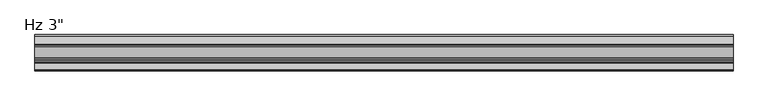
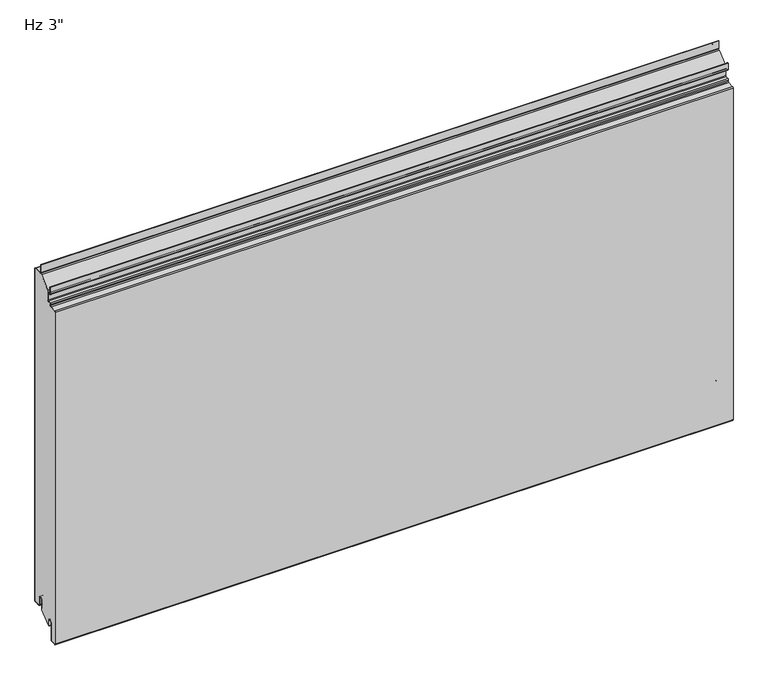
"""IFC4 building model written with IfcOpenShell, lengths in millimetres: plate geometry."""

from ifc_helpers import new_model, si_unit, point, frame, frame_2d, origin, place, context, project, spatial, polyline, circle_curve, ellipse_curve, trimmed, segment, composite_curve, outline, extrude, source, transform, mapped, element, save
from ifc_brep_helpers import plane_surface, cylinder_surface, revolved_surface, extruded_surface, advanced_brep


def plate_9c47cac3(model_context):
    return source(origin(), model_context, "Body", "SolidModel", [
        extrude(outline(composite_curve([segment(trimmed(circle_curve(frame_2d((-21.43125, 19.05)), 4.96875), [point((-16.4625, 19.05))], [point((-26.4, 19.05))], True, "CARTESIAN"), True, "CONTINUOUS"), segment(polyline([(-26.4, 19.05), (-26.4, -3.1323422), (-49.2157227, -23.01875), (-50.8, -23.01875), (-50.8, -13.5080174), (-51.59375, -13.5080174), (-51.3875, -11.9205174)]), True, "CONTINUOUS"), segment(trimmed(circle_curve(frame_2d((-56.35625, -11.9205174)), 4.96875), [point((-51.3875, -11.9205174))], [point((-61.325, -11.9205174))], True, "CARTESIAN"), True, "CONTINUOUS"), segment(polyline([(-61.325, -11.9205174), (-61.325, -50.1038221)]), True, "CONTINUOUS"), segment(trimmed(circle_curve(frame_2d((-62.70625, -50.1038221)), 1.38125), [point((-61.325, -50.1038221))], [point((-62.633961, -51.4831791))], False, "CARTESIAN"), True, "CONTINUOUS"), segment(polyline([(-62.633961, -51.4831791), (-73.746461, -52.0655606)]), True, "CONTINUOUS"), segment(trimmed(circle_curve(frame_2d((-73.81875, -50.6862035)), 1.38125), [point((-73.746461, -52.0655606))], [point((-75.2, -50.6862035))], False, "CARTESIAN"), True, "CONTINUOUS"), segment(polyline([(-75.2, -50.6862035), (-75.2, 704.9572607)]), True, "CONTINUOUS"), segment(trimmed(circle_curve(frame_2d((-73.81875, 704.9572607)), 1.38125), [point((-75.2, 704.9572607))], [point((-73.891039, 706.3366177))], False, "CARTESIAN"), True, "CONTINUOUS"), segment(polyline([(-73.891039, 706.3366177), (-60.1895807, 707.0546807)]), True, "CONTINUOUS"), segment(trimmed(circle_curve(frame_2d((-60.325, 709.6386347)), 2.5875), [point((-60.1895807, 707.0546807))], [point((-57.7375, 709.6386347))], True, "CARTESIAN"), True, "CONTINUOUS"), segment(polyline([(-57.7375, 709.6386347), (-57.7375, 712.6824411)]), True, "CONTINUOUS"), segment(trimmed(circle_curve(frame_2d((-56.35625, 712.6824411)), 1.38125), [point((-57.7375, 712.6824411))], [point((-56.428539, 714.0617981))], False, "CARTESIAN"), True, "CONTINUOUS"), segment(polyline([(-56.428539, 714.0617981), (-50.6645807, 714.3638744)]), True, "CONTINUOUS"), segment(trimmed(circle_curve(frame_2d((-50.8, 716.9478283)), 2.5875), [point((-50.6645807, 714.3638744))], [point((-48.2125, 716.9478283))], True, "CARTESIAN"), True, "CONTINUOUS"), segment(polyline([(-48.2125, 716.9478283), (-48.2125, 739.3892934), (-24.9057308, 760.20625), (-2.38125, 760.20625)]), True, "CONTINUOUS"), segment(trimmed(circle_curve(frame_2d((-2.38125, 758.825)), 1.38125), [point((-2.38125, 760.20625))], [point((-1.0, 758.825))], False, "CARTESIAN"), True, "CONTINUOUS"), segment(polyline([(-1.0, 758.825), (-1.0, 3.175)]), True, "CONTINUOUS"), segment(trimmed(circle_curve(frame_2d((-2.38125, 3.175)), 1.38125), [point((-1.0, 3.175))], [point((-2.38125, 1.79375))], False, "CARTESIAN"), True, "CONTINUOUS"), segment(polyline([(-2.38125, 1.79375), (-15.08125, 1.79375)]), True, "CONTINUOUS"), segment(trimmed(circle_curve(frame_2d((-15.08125, 3.175)), 1.38125), [point((-15.08125, 1.79375))], [point((-16.4625, 3.175))], False, "CARTESIAN"), True, "CONTINUOUS"), segment(polyline([(-16.4625, 3.175), (-16.4625, 19.05)]), True, "CONTINUOUS")], self_intersect=False)), frame((-730.0, 0.0, 0.0), z_axis=(1.0, 0.0, 0.0), x_axis=(0.0, 1.0, 0.0)), (0.0, 0.0, 1.0), 1460.0),
        extrude(outline(composite_curve([segment(polyline([(-25.4, 0.79375), (-26.4, 0.79375), (-26.4, 19.05)]), True, "CONTINUOUS"), segment(trimmed(circle_curve(frame_2d((-21.43125, 19.05)), 4.96875), [point((-26.4, 19.05))], [point((-16.4625, 19.05))], False, "CARTESIAN"), True, "CONTINUOUS"), segment(polyline([(-16.4625, 19.05), (-16.4625, 3.175)]), True, "CONTINUOUS"), segment(trimmed(circle_curve(frame_2d((-15.08125, 3.175)), 1.38125), [point((-16.4625, 3.175))], [point((-15.08125, 1.79375))], True, "CARTESIAN"), True, "CONTINUOUS"), segment(polyline([(-15.08125, 1.79375), (-2.38125, 1.79375)]), True, "CONTINUOUS"), segment(trimmed(circle_curve(frame_2d((-2.38125, 3.175)), 1.38125), [point((-2.38125, 1.79375))], [point((-1.0, 3.175))], True, "CARTESIAN"), True, "CONTINUOUS"), segment(polyline([(-1.0, 3.175), (-1.0, 758.825)]), True, "CONTINUOUS"), segment(trimmed(circle_curve(frame_2d((-2.38125, 758.825)), 1.38125), [point((-1.0, 758.825))], [point((-2.38125, 760.20625))], True, "CARTESIAN"), True, "CONTINUOUS"), segment(polyline([(-2.38125, 760.20625), (-19.446875, 760.20625)]), True, "CONTINUOUS"), segment(trimmed(circle_curve(frame_2d((-19.446875, 762.79375)), 2.5875), [point((-19.446875, 760.20625))], [point((-22.034375, 762.79375))], False, "CARTESIAN"), True, "CONTINUOUS"), segment(polyline([(-22.034375, 762.79375), (-22.034375, 780.25625), (-21.034375, 780.25625), (-21.034375, 762.79375)]), True, "CONTINUOUS"), segment(trimmed(circle_curve(frame_2d((-19.446875, 762.79375)), 1.5875), [point((-21.034375, 762.79375))], [point((-19.446875, 761.20625))], True, "CARTESIAN"), True, "CONTINUOUS"), segment(polyline([(-19.446875, 761.20625), (-2.38125, 761.20625)]), True, "CONTINUOUS"), segment(trimmed(circle_curve(frame_2d((-2.38125, 758.825)), 2.38125), [point((-2.38125, 761.20625))], [point((0.0, 758.825))], False, "CARTESIAN"), True, "CONTINUOUS"), segment(polyline([(0.0, 758.825), (0.0, 3.175)]), True, "CONTINUOUS"), segment(trimmed(circle_curve(frame_2d((-2.38125, 3.175)), 2.38125), [point((0.0, 3.175))], [point((-2.38125, 0.79375))], False, "CARTESIAN"), True, "CONTINUOUS"), segment(polyline([(-2.38125, 0.79375), (-15.08125, 0.79375)]), True, "CONTINUOUS"), segment(trimmed(circle_curve(frame_2d((-15.08125, 3.175)), 2.38125), [point((-15.08125, 0.79375))], [point((-17.4625, 3.175))], False, "CARTESIAN"), True, "CONTINUOUS"), segment(polyline([(-17.4625, 3.175), (-17.4625, 19.05)]), True, "CONTINUOUS"), segment(trimmed(circle_curve(frame_2d((-21.43125, 19.05)), 3.96875), [point((-17.4625, 19.05))], [point((-25.4, 19.05))], True, "CARTESIAN"), True, "CONTINUOUS"), segment(polyline([(-25.4, 19.05), (-25.4, 0.79375)]), True, "CONTINUOUS")], self_intersect=False)), frame((-730.0, 0.0, 0.0), z_axis=(1.0, 0.0, 0.0), x_axis=(0.0, 1.0, 0.0)), (0.0, 0.0, 1.0), 1460.0),
        advanced_brep(
        [(-730.0, -50.8, -23.2314549), (-730.0, -52.3875, -23.2314549), (-730.0, -52.3875, -11.9205174), (-730.0, -60.325, -11.9205174), (-730.0, -60.325, -50.1038221), (-730.0, -62.581625, -52.4818086), (-730.0, -73.694125, -53.0641901), (-730.0, -76.2, -50.6862035), (-730.0, -76.2, 704.9572607), (-730.0, -73.943375, 707.3352473), (-730.0, -60.2419167, 708.0533103), (-730.0, -58.7375, 709.6386347), (-730.0, -58.7375, 712.6824411), (-730.0, -56.480875, 715.0604276), (-730.0, -50.7169167, 715.3625039), (-730.0, -49.2125, 716.9478283), (-730.0, -49.2125, 731.8232326), (-730.0, -50.8, 733.4107326), (-730.0, -54.9671875, 733.4107326), (-730.0, -57.3484375, 735.7919826), (-730.0, -57.3484375, 750.2836032), (-730.0, -55.5546875, 750.2836032), (-730.0, -55.5546875, 740.5544826), (-730.0, -56.3484375, 740.5544826), (-730.0, -56.3484375, 735.7919826), (-730.0, -54.9671875, 734.4107326), (-730.0, -50.8, 734.4107326), (-730.0, -48.2125, 731.8232326), (-730.0, -48.2125, 716.9478283), (-730.0, -50.6645807, 714.3638744), (-730.0, -56.428539, 714.0617981), (-730.0, -57.7375, 712.6824411), (-730.0, -57.7375, 709.6386347), (-730.0, -60.1895807, 707.0546807), (-730.0, -73.891039, 706.3366177), (-730.0, -75.2, 704.9572607), (-730.0, -75.2, -50.6862035), (-730.0, -73.746461, -52.0655606), (-730.0, -62.633961, -51.4831791), (-730.0, -61.325, -50.1038221), (-730.0, -61.325, -11.9205174), (-730.0, -51.3875, -11.9205174), (-730.0, -51.59375, -13.5080174), (-730.0, -50.8, -13.5080174), (730.0, -50.8, -23.2314549), (730.0, -50.8, -13.5080174), (730.0, -51.59375, -13.5080174), (730.0, -51.3875, -11.9205174), (730.0, -61.325, -11.9205174), (730.0, -61.325, -50.1038221), (730.0, -62.633961, -51.4831791), (730.0, -73.746461, -52.0655606), (730.0, -75.2, -50.6862035), (730.0, -75.2, 704.9572607), (730.0, -73.891039, 706.3366177), (730.0, -60.1895807, 707.0546807), (730.0, -57.7375, 709.6386347), (730.0, -57.7375, 712.6824411), (730.0, -56.428539, 714.0617981), (730.0, -50.6645807, 714.3638744), (730.0, -48.2125, 716.9478283), (730.0, -48.2125, 731.8232326), (730.0, -50.8, 734.4107326), (730.0, -54.9671875, 734.4107326), (730.0, -56.3484375, 735.7919826), (730.0, -56.3484375, 740.5544826), (730.0, -55.5546875, 740.5544826), (730.0, -55.5546875, 750.2836032), (730.0, -57.3484375, 750.2836032), (730.0, -57.3484375, 735.7919826), (730.0, -54.9671875, 733.4107326), (730.0, -50.8, 733.4107326), (730.0, -49.2125, 731.8232326), (730.0, -49.2125, 716.9478283), (730.0, -50.7169167, 715.3625039), (730.0, -56.480875, 715.0604276), (730.0, -58.7375, 712.6824411), (730.0, -58.7375, 709.6386347), (730.0, -60.2419167, 708.0533103), (730.0, -73.943375, 707.3352473), (730.0, -76.2, 704.9572607), (730.0, -76.2, -50.6862035), (730.0, -73.694125, -53.0641901), (730.0, -62.581625, -52.4818086), (730.0, -60.325, -50.1038221), (730.0, -60.325, -11.9205174), (730.0, -52.3875, -11.9205174), (730.0, -52.3875, -23.2314549)],
        [
            (0, 1, circle_curve(frame((-730.0, -51.59375, -23.2314549), z_axis=(-1.0, 0.0, 0.0), x_axis=(0.0, 0.0, 1.0)), 0.79375)),
            (1, 2),
            (2, 3, circle_curve(frame((-730.0, -56.35625, -11.9205174), z_axis=(1.0, 0.0, 0.0), x_axis=(0.0, 0.0, 1.0)), 3.96875)),
            (3, 4),
            (4, 5, circle_curve(frame((-730.0, -62.70625, -50.1038221), z_axis=(-1.0, 0.0, 0.0), x_axis=(0.0, 0.0, 1.0)), 2.38125)),
            (5, 6),
            (6, 7, circle_curve(frame((-730.0, -73.81875, -50.6862035), z_axis=(-1.0, 0.0, 0.0), x_axis=(0.0, 0.0, 1.0)), 2.38125)),
            (7, 8),
            (8, 9, circle_curve(frame((-730.0, -73.81875, 704.9572607), z_axis=(-1.0, 0.0, 0.0), x_axis=(0.0, 0.0, 1.0)), 2.38125)),
            (9, 10),
            (10, 11, circle_curve(frame((-730.0, -60.325, 709.6386347), z_axis=(1.0, 0.0, 0.0), x_axis=(0.0, 0.0, 1.0)), 1.5875)),
            (11, 12),
            (12, 13, circle_curve(frame((-730.0, -56.35625, 712.6824411), z_axis=(-1.0, 0.0, 0.0), x_axis=(0.0, 0.0, 1.0)), 2.38125)),
            (13, 14),
            (14, 15, circle_curve(frame((-730.0, -50.8, 716.9478283), z_axis=(1.0, 0.0, 0.0), x_axis=(0.0, 0.0, 1.0)), 1.5875)),
            (15, 16),
            (16, 17, circle_curve(frame((-730.0, -50.8, 731.8232326), z_axis=(1.0, 0.0, 0.0), x_axis=(0.0, 0.0, 1.0)), 1.5875)),
            (17, 18),
            (18, 19, circle_curve(frame((-730.0, -54.9671875, 735.7919826), z_axis=(-1.0, 0.0, 0.0), x_axis=(0.0, 0.0, 1.0)), 2.38125)),
            (19, 20),
            (20, 21, ellipse_curve(frame((-730.0, -56.4515625, 750.2836032), z_axis=(-1.0, 0.0, 0.0), x_axis=(0.0, 1.0, 0.0)), 0.896875, 0.7852275)),
            (21, 22),
            (22, 23),
            (23, 24),
            (24, 25, circle_curve(frame((-730.0, -54.9671875, 735.7919826), z_axis=(1.0, 0.0, 0.0), x_axis=(0.0, 0.0, 1.0)), 1.38125)),
            (25, 26),
            (26, 27, circle_curve(frame((-730.0, -50.8, 731.8232326), z_axis=(-1.0, 0.0, 0.0), x_axis=(0.0, 0.0, 1.0)), 2.5875)),
            (27, 28),
            (28, 29, circle_curve(frame((-730.0, -50.8, 716.9478283), z_axis=(-1.0, 0.0, 0.0), x_axis=(0.0, 0.0, 1.0)), 2.5875)),
            (29, 30),
            (30, 31, circle_curve(frame((-730.0, -56.35625, 712.6824411), z_axis=(1.0, 0.0, 0.0), x_axis=(0.0, 0.0, 1.0)), 1.38125)),
            (31, 32),
            (32, 33, circle_curve(frame((-730.0, -60.325, 709.6386347), z_axis=(-1.0, 0.0, 0.0), x_axis=(0.0, 0.0, 1.0)), 2.5875)),
            (33, 34),
            (34, 35, circle_curve(frame((-730.0, -73.81875, 704.9572607), z_axis=(1.0, 0.0, 0.0), x_axis=(0.0, 0.0, 1.0)), 1.38125)),
            (35, 36),
            (36, 37, circle_curve(frame((-730.0, -73.81875, -50.6862035), z_axis=(1.0, 0.0, 0.0), x_axis=(0.0, 0.0, 1.0)), 1.38125)),
            (37, 38),
            (38, 39, circle_curve(frame((-730.0, -62.70625, -50.1038221), z_axis=(1.0, 0.0, 0.0), x_axis=(0.0, 0.0, 1.0)), 1.38125)),
            (39, 40),
            (40, 41, circle_curve(frame((-730.0, -56.35625, -11.9205174), z_axis=(-1.0, 0.0, 0.0), x_axis=(0.0, 0.0, 1.0)), 4.96875)),
            (41, 42),
            (42, 43),
            (43, 0),
            (44, 45),
            (45, 46),
            (46, 47),
            (47, 48, circle_curve(frame((730.0, -56.35625, -11.9205174), z_axis=(1.0, 0.0, 0.0), x_axis=(0.0, 0.0, 1.0)), 4.96875)),
            (48, 49),
            (49, 50, circle_curve(frame((730.0, -62.70625, -50.1038221), z_axis=(-1.0, 0.0, 0.0), x_axis=(0.0, 0.0, 1.0)), 1.38125)),
            (50, 51),
            (51, 52, circle_curve(frame((730.0, -73.81875, -50.6862035), z_axis=(-1.0, 0.0, 0.0), x_axis=(0.0, 0.0, 1.0)), 1.38125)),
            (52, 53),
            (53, 54, circle_curve(frame((730.0, -73.81875, 704.9572607), z_axis=(-1.0, 0.0, 0.0), x_axis=(0.0, 0.0, 1.0)), 1.38125)),
            (54, 55),
            (55, 56, circle_curve(frame((730.0, -60.325, 709.6386347), z_axis=(1.0, 0.0, 0.0), x_axis=(0.0, 0.0, 1.0)), 2.5875)),
            (56, 57),
            (57, 58, circle_curve(frame((730.0, -56.35625, 712.6824411), z_axis=(-1.0, 0.0, 0.0), x_axis=(0.0, 0.0, 1.0)), 1.38125)),
            (58, 59),
            (59, 60, circle_curve(frame((730.0, -50.8, 716.9478283), z_axis=(1.0, 0.0, 0.0), x_axis=(0.0, 0.0, 1.0)), 2.5875)),
            (60, 61),
            (61, 62, circle_curve(frame((730.0, -50.8, 731.8232326), z_axis=(1.0, 0.0, 0.0), x_axis=(0.0, 0.0, 1.0)), 2.5875)),
            (62, 63),
            (63, 64, circle_curve(frame((730.0, -54.9671875, 735.7919826), z_axis=(-1.0, 0.0, 0.0), x_axis=(0.0, 0.0, 1.0)), 1.38125)),
            (64, 65),
            (65, 66),
            (66, 67),
            (67, 68, ellipse_curve(frame((730.0, -56.4515625, 750.2836032), z_axis=(1.0, 0.0, 0.0), x_axis=(0.0, 1.0, 0.0)), 0.896875, 0.7852275)),
            (68, 69),
            (69, 70, circle_curve(frame((730.0, -54.9671875, 735.7919826), z_axis=(1.0, 0.0, 0.0), x_axis=(0.0, 0.0, 1.0)), 2.38125)),
            (70, 71),
            (71, 72, circle_curve(frame((730.0, -50.8, 731.8232326), z_axis=(-1.0, 0.0, 0.0), x_axis=(0.0, 0.0, 1.0)), 1.5875)),
            (72, 73),
            (73, 74, circle_curve(frame((730.0, -50.8, 716.9478283), z_axis=(-1.0, 0.0, 0.0), x_axis=(0.0, 0.0, 1.0)), 1.5875)),
            (74, 75),
            (75, 76, circle_curve(frame((730.0, -56.35625, 712.6824411), z_axis=(1.0, 0.0, 0.0), x_axis=(0.0, 0.0, 1.0)), 2.38125)),
            (76, 77),
            (77, 78, circle_curve(frame((730.0, -60.325, 709.6386347), z_axis=(-1.0, 0.0, 0.0), x_axis=(0.0, 0.0, 1.0)), 1.5875)),
            (78, 79),
            (79, 80, circle_curve(frame((730.0, -73.81875, 704.9572607), z_axis=(1.0, 0.0, 0.0), x_axis=(0.0, 0.0, 1.0)), 2.38125)),
            (80, 81),
            (81, 82, circle_curve(frame((730.0, -73.81875, -50.6862035), z_axis=(1.0, 0.0, 0.0), x_axis=(0.0, 0.0, 1.0)), 2.38125)),
            (82, 83),
            (83, 84, circle_curve(frame((730.0, -62.70625, -50.1038221), z_axis=(1.0, 0.0, 0.0), x_axis=(0.0, 0.0, 1.0)), 2.38125)),
            (84, 85),
            (85, 86, circle_curve(frame((730.0, -56.35625, -11.9205174), z_axis=(-1.0, 0.0, 0.0), x_axis=(0.0, 0.0, 1.0)), 3.96875)),
            (86, 87),
            (87, 44, circle_curve(frame((730.0, -51.59375, -23.2314549), z_axis=(1.0, 0.0, 0.0), x_axis=(0.0, 0.0, 1.0)), 0.79375)),
            (23, 65),
            (64, 24),
            (28, 60),
            (59, 29),
            (58, 30),
            (57, 31),
            (56, 32),
            (55, 33),
            (54, 34),
            (53, 35),
            (52, 36),
            (51, 37),
            (50, 38),
            (49, 39),
            (48, 40),
            (43, 45),
            (44, 0),
            (87, 1),
            (86, 2),
            (85, 3),
            (84, 4),
            (83, 5),
            (82, 6),
            (81, 7),
            (80, 8),
            (79, 9),
            (78, 10),
            (77, 11),
            (76, 12),
            (75, 13),
            (74, 14),
            (73, 15),
            (72, 16),
            (71, 17),
            (70, 18),
            (69, 19),
            (68, 20),
            (27, 61),
            (26, 62),
            (25, 63),
            (21, 67),
            (66, 22),
            (41, 47),
            (46, 42),
        ],
        [
            plane_surface(frame((-730.0, -76.2, 381.0), z_axis=(-1.0, 0.0, 0.0), x_axis=(0.0, -1.0, 0.0))),
            plane_surface(frame((730.0, -76.2, 381.0), z_axis=(1.0, 0.0, 0.0), x_axis=(0.0, -1.0, 0.0))),
            plane_surface(frame((-730.0, -56.3484375, 735.7919826), z_axis=(0.0, 1.0, 0.0), x_axis=(1.0, 0.0, 0.0))),
            cylinder_surface(frame((-730.0, -50.8, 716.9478283), z_axis=(-1.0, 0.0, 0.0), x_axis=(0.0, 0.0, 1.0)), 2.5875),
            plane_surface(frame((-730.0, -56.428539, 714.0617981), z_axis=(0.0, 0.0523359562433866, -0.9986295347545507), x_axis=(1.0, 0.0, 0.0))),
            revolved_surface(polyline([(730.0, -56.35625, 714.0636911), (-730.0, -56.35625, 714.0636911)]), (-730.0, -56.35625, 712.6824411), (1.0, 0.0, 0.0)),
            plane_surface(frame((-730.0, -57.7375, 709.6386347), z_axis=(0.0, 1.0, 0.0), x_axis=(1.0, 0.0, 0.0))),
            cylinder_surface(frame((-730.0, -60.325, 709.6386347), z_axis=(-1.0, 0.0, 0.0), x_axis=(0.0, 0.0, 1.0)), 2.5875),
            plane_surface(frame((-730.0, -73.891039, 706.3366177), z_axis=(0.0, 0.05233595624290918, -0.9986295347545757), x_axis=(1.0, 0.0, 0.0))),
            revolved_surface(polyline([(730.0, -73.81875, 706.3385107), (-730.0, -73.81875, 706.3385107)]), (-730.0, -73.81875, 704.9572607), (1.0, 0.0, 0.0)),
            plane_surface(frame((-730.0, -75.2, -50.6862035), z_axis=(0.0, 1.0, 0.0), x_axis=(1.0, 0.0, 0.0))),
            revolved_surface(polyline([(730.0, -73.81875, -49.304953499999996), (-730.0, -73.81875, -49.304953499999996)]), (-730.0, -73.81875, -50.6862035), (1.0, 0.0, 0.0)),
            plane_surface(frame((-730.0, -62.633961, -51.4831791), z_axis=(0.0, -0.05233595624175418, 0.9986295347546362), x_axis=(1.0, 0.0, 0.0))),
            revolved_surface(polyline([(730.0, -62.70625, -48.7225721), (-730.0, -62.70625, -48.7225721)]), (-730.0, -62.70625, -50.1038221), (1.0, 0.0, 0.0)),
            plane_surface(frame((-730.0, -61.325, -11.9205174), z_axis=(0.0, -1.0, 0.0), x_axis=(1.0, 0.0, 0.0))),
            plane_surface(frame((-730.0, -50.8, -23.2314549), z_axis=(0.0, 1.0, 0.0), x_axis=(1.0, 0.0, 0.0))),
            cylinder_surface(frame((-730.0, -51.59375, -23.2314549), z_axis=(-1.0, 0.0, 0.0), x_axis=(0.0, 0.0, 1.0)), 0.79375),
            plane_surface(frame((-730.0, -52.3875, -11.9205174), z_axis=(0.0, -1.0, 0.0), x_axis=(1.0, 0.0, 0.0))),
            revolved_surface(polyline([(730.0, -56.35625, -7.9517674), (-730.0, -56.35625, -7.9517674)]), (-730.0, -56.35625, -11.9205174), (1.0, 0.0, 0.0)),
            plane_surface(frame((-730.0, -60.325, -50.1038221), z_axis=(0.0, 1.0, 0.0), x_axis=(1.0, 0.0, 0.0))),
            cylinder_surface(frame((-730.0, -62.70625, -50.1038221), z_axis=(-1.0, 0.0, 0.0), x_axis=(0.0, 0.0, 1.0)), 2.38125),
            plane_surface(frame((-730.0, -73.694125, -53.0641901), z_axis=(0.0, 0.05233595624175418, -0.9986295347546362), x_axis=(1.0, 0.0, 0.0))),
            cylinder_surface(frame((-730.0, -73.81875, -50.6862035), z_axis=(-1.0, 0.0, 0.0), x_axis=(0.0, 0.0, 1.0)), 2.38125),
            plane_surface(frame((-730.0, -76.2, 704.9572607), z_axis=(0.0, -1.0, 0.0), x_axis=(1.0, 0.0, 0.0))),
            cylinder_surface(frame((-730.0, -73.81875, 704.9572607), z_axis=(-1.0, 0.0, 0.0), x_axis=(0.0, 0.0, 1.0)), 2.38125),
            plane_surface(frame((-730.0, -60.2419167, 708.0533103), z_axis=(0.0, -0.052335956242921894, 0.998629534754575), x_axis=(1.0, 0.0, 0.0))),
            revolved_surface(polyline([(730.0, -60.325, 711.2261347), (-730.0, -60.325, 711.2261347)]), (-730.0, -60.325, 709.6386347), (1.0, 0.0, 0.0)),
            plane_surface(frame((-730.0, -58.7375, 712.6824411), z_axis=(0.0, -1.0, 0.0), x_axis=(1.0, 0.0, 0.0))),
            cylinder_surface(frame((-730.0, -56.35625, 712.6824411), z_axis=(-1.0, 0.0, 0.0), x_axis=(0.0, 0.0, 1.0)), 2.38125),
            plane_surface(frame((-730.0, -50.7169167, 715.3625039), z_axis=(0.0, -0.05233595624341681, 0.9986295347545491), x_axis=(1.0, 0.0, 0.0))),
            revolved_surface(polyline([(730.0, -50.8, 718.5353283), (-730.0, -50.8, 718.5353283)]), (-730.0, -50.8, 716.9478283), (1.0, 0.0, 0.0)),
            plane_surface(frame((-730.0, -49.2125, 731.8232326), z_axis=(0.0, -1.0, 0.0), x_axis=(1.0, 0.0, 0.0))),
            revolved_surface(polyline([(730.0, -50.8, 733.4107326), (-730.0, -50.8, 733.4107326)]), (-730.0, -50.8, 731.8232326), (1.0, 0.0, 0.0)),
            plane_surface(frame((-730.0, -54.9671875, 733.4107326), z_axis=(0.0, 0.0, -1.0), x_axis=(1.0, 0.0, 0.0))),
            cylinder_surface(frame((-730.0, -54.9671875, 735.7919826), z_axis=(-1.0, 0.0, 0.0), x_axis=(0.0, 0.0, 1.0)), 2.38125),
            plane_surface(frame((-730.0, -57.3484375, 750.2836032), z_axis=(0.0, -1.0, 0.0), x_axis=(1.0, 0.0, 0.0))),
            plane_surface(frame((-730.0, -48.2125, 716.9478283), z_axis=(0.0, 1.0, 0.0), x_axis=(1.0, 0.0, 0.0))),
            cylinder_surface(frame((-730.0, -50.8, 731.8232326), z_axis=(-1.0, 0.0, 0.0), x_axis=(0.0, 0.0, 1.0)), 2.5875),
            plane_surface(frame((-730.0, -50.8, 734.4107326), z_axis=(0.0, 0.0, 1.0), x_axis=(1.0, 0.0, 0.0))),
            revolved_surface(polyline([(730.0, -54.9671875, 737.1732326), (-730.0, -54.9671875, 737.1732326)]), (-730.0, -54.9671875, 735.7919826), (1.0, 0.0, 0.0)),
            plane_surface(frame((-730.0, -55.5546875, 740.5544826), z_axis=(0.0, 1.0, 0.0), x_axis=(1.0, 0.0, 0.0))),
            extruded_surface(trimmed(ellipse_curve(frame((-730.0, -56.4515625, 750.2836032), z_axis=(1.0, 0.0, 0.0), x_axis=(0.0, 1.0, 0.0)), 0.896875, 0.7852275), [point((-730.0, -55.5546875, 750.2836032))], [point((-730.0, -57.3484375, 750.2836032))], True, "CARTESIAN"), (1460.0, 0.0, 0.0), 1460.0),
            plane_surface(frame((-730.0, -51.59375, -13.5080174), z_axis=(0.0, 0.9916655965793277, -0.12883844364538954), x_axis=(1.0, 0.0, 0.0))),
            cylinder_surface(frame((-730.0, -56.35625, -11.9205174), z_axis=(-1.0, 0.0, 0.0), x_axis=(0.0, 0.0, 1.0)), 4.96875),
            plane_surface(frame((-730.0, -50.8, -13.5080174), z_axis=(0.0, 0.0, 1.0), x_axis=(1.0, 0.0, 0.0))),
            plane_surface(frame((-730.0, -56.3484375, 740.5544826), z_axis=(0.0, 0.0, -1.0), x_axis=(1.0, 0.0, 0.0))),
        ],
        [
            (0, [[1, 2, 3, 4, 5, 6, 7, 8, 9, 10, 11, 12, 13, 14, 15, 16, 17, 18, 19, 20, 21, 22, 23, 24, 25, 26, 27, 28, 29, 30, 31, 32, 33, 34, 35, 36, 37, 38, 39, 40, 41, 42, 43, 44]]),
            (1, [[45, 46, 47, 48, 49, 50, 51, 52, 53, 54, 55, 56, 57, 58, 59, 60, 61, 62, 63, 64, 65, 66, 67, 68, 69, 70, 71, 72, 73, 74, 75, 76, 77, 78, 79, 80, 81, 82, 83, 84, 85, 86, 87, 88]]),
            (2, [[89, -65, 90, -24]]),
            (3, [[91, -60, 92, -29]]),
            (4, [[-92, -59, 93, -30]]),
            (5, [[-93, -58, 94, -31]]),
            (6, [[-94, -57, 95, -32]]),
            (7, [[-95, -56, 96, -33]]),
            (8, [[-96, -55, 97, -34]]),
            (9, [[-97, -54, 98, -35]]),
            (10, [[-98, -53, 99, -36]]),
            (11, [[-99, -52, 100, -37]]),
            (12, [[-100, -51, 101, -38]]),
            (13, [[-101, -50, 102, -39]]),
            (14, [[-102, -49, 103, -40]]),
            (15, [[104, -45, 105, -44]]),
            (16, [[-105, -88, 106, -1]]),
            (17, [[-106, -87, 107, -2]]),
            (18, [[-107, -86, 108, -3]]),
            (19, [[-108, -85, 109, -4]]),
            (20, [[-109, -84, 110, -5]]),
            (21, [[-110, -83, 111, -6]]),
            (22, [[-111, -82, 112, -7]]),
            (23, [[-112, -81, 113, -8]]),
            (24, [[-113, -80, 114, -9]]),
            (25, [[-114, -79, 115, -10]]),
            (26, [[-115, -78, 116, -11]]),
            (27, [[-116, -77, 117, -12]]),
            (28, [[-117, -76, 118, -13]]),
            (29, [[-118, -75, 119, -14]]),
            (30, [[-119, -74, 120, -15]]),
            (31, [[-120, -73, 121, -16]]),
            (32, [[-121, -72, 122, -17]]),
            (33, [[-122, -71, 123, -18]]),
            (34, [[-123, -70, 124, -19]]),
            (35, [[-124, -69, 125, -20]]),
            (36, [[126, -61, -91, -28]]),
            (37, [[127, -62, -126, -27]]),
            (38, [[128, -63, -127, -26]]),
            (39, [[-90, -64, -128, -25]]),
            (40, [[129, -67, 130, -22]]),
            (41, [[-125, -68, -129, -21]]),
            (42, [[131, -47, 132, -42]]),
            (43, [[-103, -48, -131, -41]]),
            (44, [[-132, -46, -104, -43]]),
            (45, [[-130, -66, -89, -23]]),
        ],
    ),
    ])


if __name__ == "__main__":
    model = new_model("IFC4")
    model_context = context("Model", 3, world=origin())
    ifc_project = project(units=[si_unit("LENGTHUNIT", "METRE", prefix="MILLI")], contexts=[model_context])
    site = spatial("IfcSite", under=ifc_project)
    building = spatial("IfcBuilding", under=site)
    placement = place(None, origin())
    plate_shape = plate_9c47cac3(model_context)
    element("IfcPlate", 1, ObjectType="KIP-30-DWTR-R19-CP-Hz-F : Hz 3\"", at=placement, inside=building, context=model_context, shape_type="MappedRepresentation", body=[
        mapped(plate_shape, transform((0.0, 0.0, 0.0), x_axis=(1.0, 0.0, 0.0), y_axis=(0.0, 1.0, 0.0), z_axis=(0.0, 0.0, 1.0))),
    ])
    save(model, "model.ifc")
